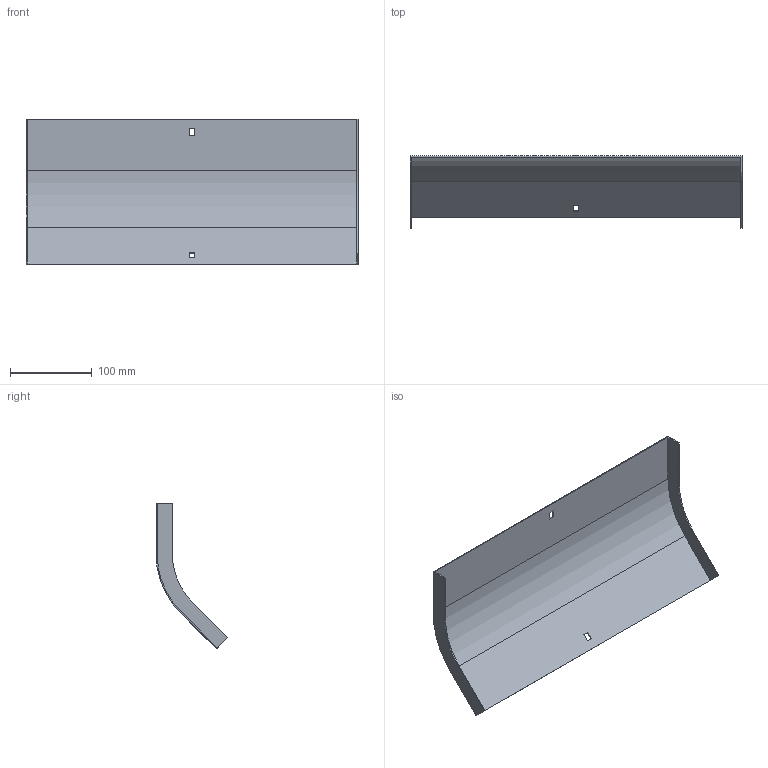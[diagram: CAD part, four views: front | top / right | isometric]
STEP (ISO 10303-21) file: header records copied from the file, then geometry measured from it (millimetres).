
FILE_DESCRIPTION (( 'STEP AP214' ), '1' );
FILE_NAME ('34G1C400.step', '2025-02-21T12:43:30', ( '' ), ( '' ), 'SwSTEP 2.0', 'SolidWorks 2023', '' );
FILE_SCHEMA (( 'AUTOMOTIVE_DESIGN' ));
Length unit declared in the file: millimetre
Products named in the file (1): 34G1C400
Bounding box: 407 x 88.23 x 178.86 mm (x, y, z)
Volume: 135644.8 mm3; surface area: 182854.9 mm2
Topology: 1 solids, 1 shells, 26 faces, 72 edges, 48 vertices
Faces by surface type: plane 22, cylinder 4
Entity records: 855 total; most frequent: CARTESIAN_POINT 147, ORIENTED_EDGE 144, DIRECTION 134, EDGE_CURVE 72, VECTOR 64, LINE 64, VERTEX_POINT 48, AXIS2_PLACEMENT_3D 35
